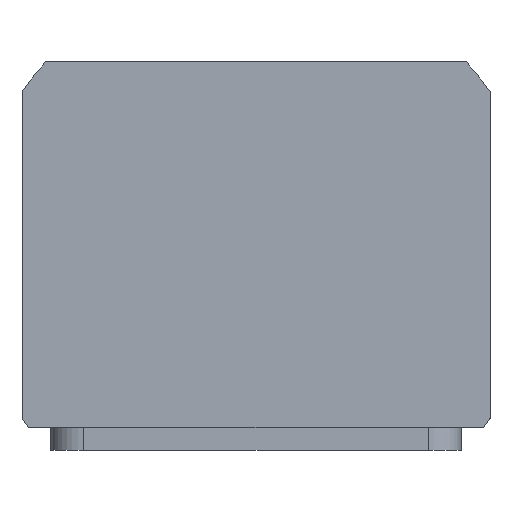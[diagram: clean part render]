
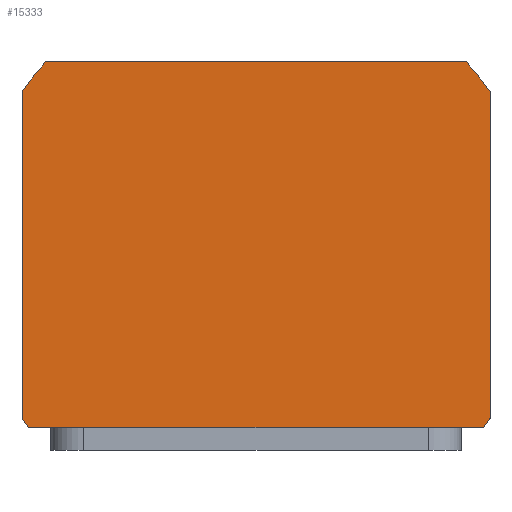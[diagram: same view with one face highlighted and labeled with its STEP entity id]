
A CAD part, top view. The second image highlights one B-rep face of the part: STEP entity #15333.
In plain terms, the highlighted planar face has unit normal (0, 0, 1) as drawn and (0, 0, -1) by its records, which use the part's own axes.
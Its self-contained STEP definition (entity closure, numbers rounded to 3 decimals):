
#1272 = ORIENTED_EDGE ( 'NONE', *, *, #4242, .F. ) ;
#1322 = DIRECTION ( 'NONE',  ( 0., 0., 1. ) ) ;
#1417 = DIRECTION ( 'NONE',  ( 0., 0., 1. ) ) ;
#1644 = CIRCLE ( 'NONE', #13115, 69.5 ) ;
#1730 = DIRECTION ( 'NONE',  ( 0., 0., 1. ) ) ;
#1871 = CARTESIAN_POINT ( 'NONE',  ( 51.19, -44.5, 0. ) ) ;
#2730 = CIRCLE ( 'NONE', #8289, 69.5 ) ;
#3242 = EDGE_CURVE ( 'NONE', #14022, #19191, #9692, .T. ) ;
#3609 = CARTESIAN_POINT ( 'NONE',  ( 55.38, 44.5, 0. ) ) ;
#4242 = EDGE_CURVE ( 'NONE', #7949, #15180, #1644, .T. ) ;
#4869 = VERTEX_POINT ( 'NONE', #1871 ) ;
#5218 = PLANE ( 'NONE',  #9294 ) ;
#5383 = LINE ( 'NONE', #8710, #18985 ) ;
#5667 = ORIENTED_EDGE ( 'NONE', *, *, #3242, .F. ) ;
#6206 = CARTESIAN_POINT ( 'NONE',  ( -57., -44.5, 0. ) ) ;
#6560 = DIRECTION ( 'NONE',  ( 0., 0., 1. ) ) ;
#6736 = CARTESIAN_POINT ( 'NONE',  ( 57., 42.273, 0. ) ) ;
#6808 = VERTEX_POINT ( 'NONE', #20147 ) ;
#7102 = VERTEX_POINT ( 'NONE', #3609 ) ;
#7949 = VERTEX_POINT ( 'NONE', #15150 ) ;
#8289 = AXIS2_PLACEMENT_3D ( 'NONE', #11996, #1417, #13787 ) ;
#8461 = ORIENTED_EDGE ( 'NONE', *, *, #16527, .F. ) ;
#8710 = CARTESIAN_POINT ( 'NONE',  ( -57., 44.5, 0. ) ) ;
#9294 = AXIS2_PLACEMENT_3D ( 'NONE', #22948, #1730, #14117 ) ;
#9480 = CARTESIAN_POINT ( 'NONE',  ( 0., 2.508, 0. ) ) ;
#9692 = LINE ( 'NONE', #11108, #18577 ) ;
#9809 = EDGE_CURVE ( 'NONE', #6808, #22041, #15800, .T. ) ;
#9976 = VECTOR ( 'NONE', #18595, 1000. ) ;
#11108 = CARTESIAN_POINT ( 'NONE',  ( 57., 44.5, 0. ) ) ;
#11252 = DIRECTION ( 'NONE',  ( 1., 0., 0. ) ) ;
#11328 = CARTESIAN_POINT ( 'NONE',  ( -51.19, -44.5, 0. ) ) ;
#11904 = CARTESIAN_POINT ( 'NONE',  ( 0., 2.508, 0. ) ) ;
#11996 = CARTESIAN_POINT ( 'NONE',  ( 0., 2.508, 0. ) ) ;
#12640 = EDGE_LOOP ( 'NONE', ( #18791, #5667, #18734, #8461, #22871, #15196, #1272, #17770 ) ) ;
#12816 = CARTESIAN_POINT ( 'NONE',  ( -57., 44.5, 0. ) ) ;
#13115 = AXIS2_PLACEMENT_3D ( 'NONE', #9480, #21902, #11252 ) ;
#13437 = VECTOR ( 'NONE', #14613, 1000. ) ;
#13692 = DIRECTION ( 'NONE',  ( 1., 0., 0. ) ) ;
#13787 = DIRECTION ( 'NONE',  ( 1., 0., 0. ) ) ;
#13979 = LINE ( 'NONE', #12816, #13437 ) ;
#14022 = VERTEX_POINT ( 'NONE', #20567 ) ;
#14117 = DIRECTION ( 'NONE',  ( 1., 0., 0. ) ) ;
#14134 = LINE ( 'NONE', #6206, #9976 ) ;
#14613 = DIRECTION ( 'NONE',  ( 0., -1., 0. ) ) ;
#15150 = CARTESIAN_POINT ( 'NONE',  ( -55.38, 44.5, 0. ) ) ;
#15180 = VERTEX_POINT ( 'NONE', #20822 ) ;
#15196 = ORIENTED_EDGE ( 'NONE', *, *, #21897, .F. ) ;
#15333 = ADVANCED_FACE ( 'NONE', ( #15555 ), #5218, .F. ) ;
#15555 = FACE_OUTER_BOUND ( 'NONE', #12640, .T. ) ;
#15800 = CIRCLE ( 'NONE', #22699, 69.5 ) ;
#16527 = EDGE_CURVE ( 'NONE', #22041, #4869, #14134, .T. ) ;
#16552 = DIRECTION ( 'NONE',  ( 0., 1., 0. ) ) ;
#17180 = CARTESIAN_POINT ( 'NONE',  ( 0., 2.508, 0. ) ) ;
#17770 = ORIENTED_EDGE ( 'NONE', *, *, #22417, .F. ) ;
#18187 = EDGE_CURVE ( 'NONE', #19191, #7102, #2730, .T. ) ;
#18577 = VECTOR ( 'NONE', #16552, 1000. ) ;
#18595 = DIRECTION ( 'NONE',  ( 1., 0., 0. ) ) ;
#18734 = ORIENTED_EDGE ( 'NONE', *, *, #19037, .F. ) ;
#18791 = ORIENTED_EDGE ( 'NONE', *, *, #18187, .F. ) ;
#18963 = DIRECTION ( 'NONE',  ( 1., 0., 0. ) ) ;
#18985 = VECTOR ( 'NONE', #21126, 1000. ) ;
#19037 = EDGE_CURVE ( 'NONE', #4869, #14022, #20180, .T. ) ;
#19191 = VERTEX_POINT ( 'NONE', #6736 ) ;
#19722 = AXIS2_PLACEMENT_3D ( 'NONE', #11904, #1322, #13692 ) ;
#20147 = CARTESIAN_POINT ( 'NONE',  ( -57., -37.256, 0. ) ) ;
#20180 = CIRCLE ( 'NONE', #19722, 69.5 ) ;
#20567 = CARTESIAN_POINT ( 'NONE',  ( 57., -37.256, 0. ) ) ;
#20822 = CARTESIAN_POINT ( 'NONE',  ( -57., 42.273, 0. ) ) ;
#21126 = DIRECTION ( 'NONE',  ( -1., 0., 0. ) ) ;
#21897 = EDGE_CURVE ( 'NONE', #15180, #6808, #13979, .T. ) ;
#21902 = DIRECTION ( 'NONE',  ( 0., 0., 1. ) ) ;
#22041 = VERTEX_POINT ( 'NONE', #11328 ) ;
#22417 = EDGE_CURVE ( 'NONE', #7102, #7949, #5383, .T. ) ;
#22699 = AXIS2_PLACEMENT_3D ( 'NONE', #17180, #6560, #18963 ) ;
#22871 = ORIENTED_EDGE ( 'NONE', *, *, #9809, .F. ) ;
#22948 = CARTESIAN_POINT ( 'NONE',  ( 0., 0., 0. ) ) ;
